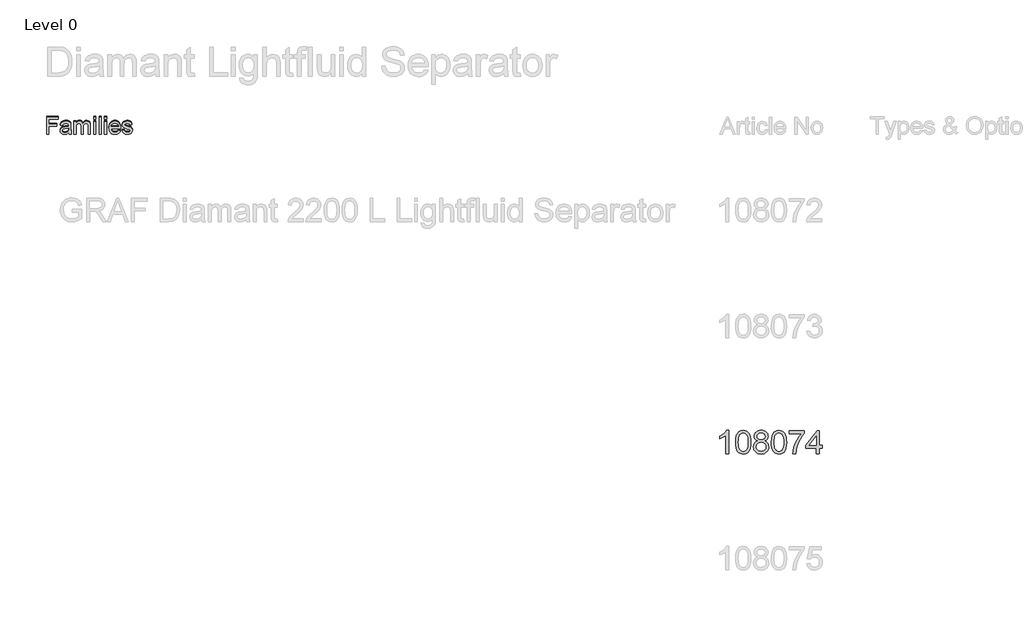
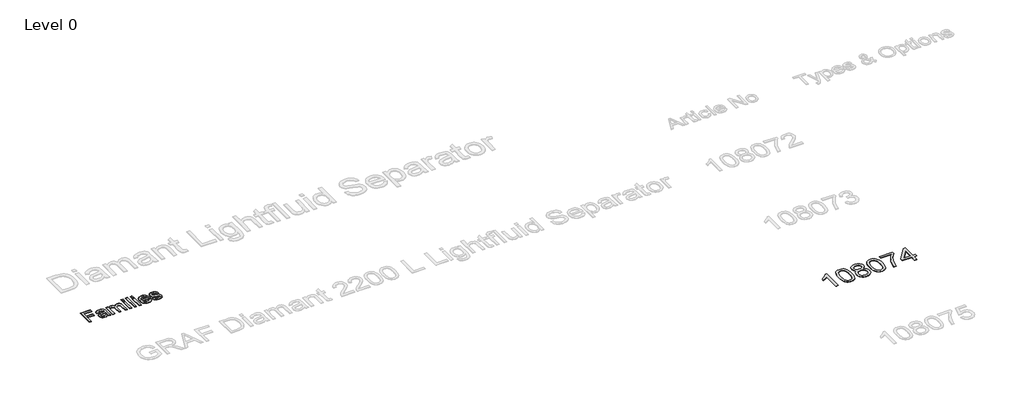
# One storey, part 4 of 8: 3 proxies.
"""IFC4 building model written with IfcOpenShell, lengths in millimetres."""

from ifc_helpers import new_model, si_unit, origin, origin_with_axes, place, context, project, spatial, polyline, outline, extrude, element, save

model = new_model("IFC4")

# Units and contexts
model_context = context("Model", 3, world=origin())
ifc_project = project(units=[si_unit("LENGTHUNIT", "METRE", prefix="MILLI")], contexts=[model_context])

# Site, building, storey
site = spatial("IfcSite", under=ifc_project)
building = spatial("IfcBuilding", under=site)
storey = spatial("IfcBuildingStorey", under=building, Name="Level 0", Elevation=0.0)

# Proxies
placement = place(None, origin())
element("IfcBuildingElementProxy", 1, Name="300mm Arial", ObjectType="300mm Arial", at=placement, inside=storey, context=model_context, shape_type="SweptSolid", body=[
    extrude(outline(polyline([(-15382.9152593, 11653.8274553), (-15382.9152593, 11949.2120707), (-15184.4537209, 11949.2120707), (-15184.4537209, 11912.2889938), (-15345.9921824, 11912.2889938), (-15345.9921824, 11824.5966861), (-15207.530644, 11824.5966861), (-15207.530644, 11787.6736092), (-15345.9921824, 11787.6736092), (-15345.9921824, 11653.8274553), (-15382.9152593, 11653.8274553)])), origin_with_axes(), (0.0, 0.0, 1.0), 10.0),
    extrude(outline(polyline([(-14999.8383363, 11681.519763), (-15017.4795622, 11666.3935611), (-15035.6436247, 11656.4957246), (-15054.7451872, 11651.0329842), (-15075.1989132, 11649.2120707), (-15106.0552834, 11653.5930803), (-15128.8167017, 11666.7361092), (-15142.8521584, 11686.6940419), (-15147.530644, 11711.519763), (-15145.763817, 11726.8262534), (-15140.4633363, 11740.7264938), (-15132.2872545, 11752.6255323), (-15121.8936247, 11761.9284169), (-15096.0402593, 11774.0438015), (-15064.093144, 11779.5966861), (-15026.3407401, 11785.4380323), (-15000.0546824, 11792.2889938), (-14999.8383363, 11800.5101476), (-15002.3804036, 11816.988513), (-15010.0066055, 11827.769763), (-15027.061894, 11835.7745707), (-15050.8239132, 11838.44284), (-15072.8191055, 11836.6669986), (-15088.1796824, 11831.3394746), (-15098.654442, 11821.4867101), (-15105.9921824, 11806.1351476), (-15142.9152593, 11810.7505323), (-15136.5060045, 11830.94284), (-15126.9417017, 11846.8082246), (-15113.3299228, 11858.941638), (-15094.7782401, 11867.9380323), (-15072.0889372, 11873.5089457), (-15046.0642978, 11875.3659169), (-15021.1033603, 11873.7252919), (-15001.3167017, 11868.8034169), (-14986.3978315, 11861.4025755), (-14976.0402593, 11852.3250515), (-14969.171269, 11841.1020948), (-14964.718144, 11827.2649553), (-14962.9152593, 11794.957263), (-14962.9152593, 11749.019763), (-14961.0402593, 11684.8731284), (-14953.6844901, 11653.8274553), (-14990.607567, 11653.8274553), (-14999.8383363, 11681.519763)]), holes=[polyline([(-14999.8383363, 11755.3659169), (-15059.405644, 11744.0438015), (-15091.1724709, 11738.0582246), (-15105.5594901, 11728.3226476), (-15110.607567, 11714.1159169), (-15107.858168, 11703.1363496), (-15099.6099709, 11694.1399553), (-15086.0432642, 11688.1363496), (-15067.3383363, 11686.1351476), (-15047.5066055, 11688.3436813), (-15029.982567, 11694.9692823), (-15015.7758363, 11704.7319025), (-15005.8960286, 11716.3514938), (-15001.515019, 11728.3226476), (-15000.0546824, 11744.9091861), (-14999.8383363, 11755.3659169)])]), origin_with_axes(), (0.0, 0.0, 1.0), 10.0),
    extrude(outline(polyline([(-14912.1460286, 11653.8274553), (-14912.1460286, 11870.7505323), (-14875.2229517, 11870.7505323), (-14875.2229517, 11835.0534169), (-14864.1171824, 11851.4506525), (-14849.8383363, 11864.2962053), (-14832.873192, 11872.598489), (-14813.7085286, 11875.3659169), (-14793.1736728, 11872.5444025), (-14776.7133363, 11864.0798592), (-14764.4176632, 11850.5311813), (-14756.3767978, 11832.457263), (-14742.9182642, 11851.2297991), (-14727.5667017, 11864.6387534), (-14710.3221103, 11872.684126), (-14691.1844901, 11875.3659169), (-14663.4290815, 11870.9037775), (-14642.9032401, 11857.5173592), (-14630.2199468, 11834.8460851), (-14625.9921824, 11802.5293784), (-14625.9921824, 11653.8274553), (-14662.9152593, 11653.8274553), (-14662.9152593, 11786.6639938), (-14666.3407401, 11817.4933207), (-14671.154442, 11825.9939217), (-14678.7445863, 11832.6736092), (-14688.5072065, 11837.0005323), (-14699.8383363, 11838.44284), (-14719.8413411, 11834.7469265), (-14736.1484324, 11823.6591861), (-14746.9927834, 11804.4224073), (-14750.607567, 11776.2793784), (-14750.607567, 11653.8274553), (-14787.530644, 11653.8274553), (-14787.530644, 11790.7745707), (-14789.6670622, 11811.6519746), (-14796.076317, 11826.5438015), (-14807.3533603, 11835.4680803), (-14824.093144, 11838.44284), (-14838.3179036, 11836.4596669), (-14851.4248747, 11830.5101476), (-14862.2421824, 11820.738513), (-14869.5979517, 11807.2889938), (-14873.8167017, 11788.629138), (-14875.2229517, 11763.2264938), (-14875.2229517, 11653.8274553), (-14912.1460286, 11653.8274553)])), origin_with_axes(), (0.0, 0.0, 1.0), 10.0),
    extrude(outline(polyline([(-14570.607567, 11912.2889938), (-14570.607567, 11949.2120707), (-14533.6844901, 11949.2120707), (-14533.6844901, 11912.2889938), (-14570.607567, 11912.2889938)])), origin_with_axes(), (0.0, 0.0, 1.0), 10.0),
    extrude(outline(polyline([(-14570.607567, 11653.8274553), (-14570.607567, 11870.7505323), (-14533.6844901, 11870.7505323), (-14533.6844901, 11653.8274553), (-14570.607567, 11653.8274553)])), origin_with_axes(), (0.0, 0.0, 1.0), 10.0),
    extrude(outline(polyline([(-14478.2998747, 11653.8274553), (-14478.2998747, 11949.2120707), (-14441.3767978, 11949.2120707), (-14441.3767978, 11653.8274553), (-14478.2998747, 11653.8274553)])), origin_with_axes(), (0.0, 0.0, 1.0), 10.0),
    extrude(outline(polyline([(-14385.9921824, 11912.2889938), (-14385.9921824, 11949.2120707), (-14349.0691055, 11949.2120707), (-14349.0691055, 11912.2889938), (-14385.9921824, 11912.2889938)])), origin_with_axes(), (0.0, 0.0, 1.0), 10.0),
    extrude(outline(polyline([(-14385.9921824, 11653.8274553), (-14385.9921824, 11870.7505323), (-14349.0691055, 11870.7505323), (-14349.0691055, 11653.8274553), (-14385.9921824, 11653.8274553)])), origin_with_axes(), (0.0, 0.0, 1.0), 10.0),
    extrude(outline(polyline([(-14141.8094901, 11718.44284), (-14105.607567, 11713.8274553), (-14118.6514372, 11686.5498111), (-14139.4657401, 11666.1591861), (-14167.5817257, 11653.4488496), (-14202.530644, 11649.2120707), (-14225.4408002, 11651.039745), (-14245.8539613, 11656.5227678), (-14263.7701271, 11665.6611392), (-14279.1892978, 11678.4548592), (-14291.5886367, 11694.547858), (-14300.4453074, 11713.5840659), (-14305.7593098, 11735.563483), (-14307.530644, 11760.4861092), (-14305.741281, 11786.2538375), (-14300.373192, 11808.9656765), (-14291.4263771, 11828.621626), (-14278.9008363, 11845.2216861), (-14263.5222305, 11858.4097871), (-14246.0162209, 11867.8298592), (-14226.3828074, 11873.4819025), (-14204.6219901, 11875.3659169), (-14183.5620442, 11873.4864097), (-14164.5168218, 11867.847888), (-14147.486323, 11858.450352), (-14132.4705478, 11845.2938015), (-14120.213186, 11828.7297991), (-14111.4579276, 11809.1099073), (-14106.2047726, 11786.434126), (-14104.4537209, 11760.7024553), (-14104.670067, 11750.7505323), (-14270.607567, 11750.7505323), (-14264.2163411, 11723.1123111), (-14249.3695863, 11702.7938015), (-14227.9423026, 11690.2998111), (-14201.8094901, 11686.1351476), (-14182.1580478, 11688.0642342), (-14165.607567, 11693.8514938), (-14152.1580478, 11703.8575034), (-14141.8094901, 11718.44284)]), holes=[polyline([(-14270.607567, 11787.6736092), (-14141.3767978, 11787.6736092), (-14146.3707882, 11807.1808207), (-14156.1604517, 11821.1351476), (-14177.686894, 11834.1159169), (-14204.7662209, 11838.44284), (-14229.655043, 11834.9903159), (-14250.2349709, 11824.6327438), (-14264.5408603, 11808.4879121), (-14270.607567, 11787.6736092)])]), origin_with_axes(), (0.0, 0.0, 1.0), 10.0),
    extrude(outline(polyline([(-14081.3767978, 11718.44284), (-14044.4537209, 11723.0582246), (-14038.6304036, 11707.2649553), (-14027.3623747, 11695.6543784), (-14010.577519, 11688.5149553), (-13988.2037209, 11686.1351476), (-13966.1003555, 11688.316638), (-13950.5594901, 11694.8611092), (-13941.3647786, 11704.3442823), (-13938.2998747, 11715.3418784), (-13941.3828074, 11724.7529361), (-13950.6316055, 11731.9284169), (-13988.6364132, 11742.457263), (-14044.2373747, 11760.5221669), (-14058.3088892, 11769.5996909), (-14068.5042017, 11781.6159169), (-14074.6971103, 11795.8046188), (-14076.7614132, 11811.3995707), (-14075.1027593, 11825.7054601), (-14070.1267978, 11838.91159), (-14062.2842497, 11850.4951236), (-14052.0258363, 11859.9332246), (-14028.5522786, 11870.8587053), (-13996.7854517, 11875.3659169), (-13972.7529997, 11873.5540178), (-13951.857567, 11868.1183207), (-13935.0546824, 11859.5906765), (-13923.2998747, 11848.5029361), (-13915.5114132, 11834.0347871), (-13910.607567, 11815.3659169), (-13947.530644, 11810.7505323), (-13952.1911007, 11822.3701236), (-13961.4128555, 11831.1231284), (-13975.2860526, 11836.6129121), (-13993.9008363, 11838.44284), (-14015.1027593, 11836.6940419), (-14029.2373747, 11831.4476476), (-14037.1880959, 11823.8755323), (-14039.8383363, 11815.1495707), (-14035.4392978, 11804.4043784), (-14021.6652593, 11796.25534), (-13989.8623747, 11788.394763), (-13935.6676632, 11771.0149553), (-13921.3527593, 11762.7036573), (-13910.499394, 11751.3274553), (-13903.6574468, 11736.8502919), (-13901.3767978, 11719.2361092), (-13904.0540815, 11701.0269746), (-13912.0859324, 11683.8995707), (-13925.1658603, 11669.1970467), (-13942.9873747, 11658.2625515), (-13964.513817, 11651.4746909), (-13988.7085286, 11649.2120707), (-14025.9380959, 11653.5750515), (-14053.107567, 11666.6639938), (-14071.2445863, 11688.3346669), (-14081.3767978, 11718.44284)])), origin_with_axes(), (0.0, 0.0, 1.0), 10.0),
])
element("IfcBuildingElementProxy", 2, Name="300mm Arial", ObjectType="300mm Arial", at=placement, inside=storey, context=model_context, shape_type="SweptSolid", body=[
    extrude(outline(polyline([(-15382.9152593, 11671.1260199), (-15382.9152593, 11966.5106353), (-15184.4537209, 11966.5106353), (-15184.4537209, 11929.5875583), (-15345.9921824, 11929.5875583), (-15345.9921824, 11841.8952506), (-15207.530644, 11841.8952506), (-15207.530644, 11804.9721737), (-15345.9921824, 11804.9721737), (-15345.9921824, 11671.1260199), (-15382.9152593, 11671.1260199)])), origin_with_axes(), (0.0, 0.0, 1.0), 5.0),
    extrude(outline(polyline([(-14999.8383363, 11698.8183276), (-15017.4795622, 11683.6921256), (-15035.6436247, 11673.7942891), (-15054.7451872, 11668.3315487), (-15075.1989132, 11666.5106353), (-15106.0552834, 11670.8916449), (-15128.8167017, 11684.0346737), (-15142.8521584, 11703.9926064), (-15147.530644, 11728.8183276), (-15145.763817, 11744.1248179), (-15140.4633363, 11758.0250583), (-15132.2872545, 11769.9240968), (-15121.8936247, 11779.2269814), (-15096.0402593, 11791.342366), (-15064.093144, 11796.8952506), (-15026.3407401, 11802.7365968), (-15000.0546824, 11809.5875583), (-14999.8383363, 11817.8087122), (-15002.3804036, 11834.2870776), (-15010.0066055, 11845.0683276), (-15027.061894, 11853.0731353), (-15050.8239132, 11855.7414045), (-15072.8191055, 11853.9655631), (-15088.1796824, 11848.6380391), (-15098.654442, 11838.7852747), (-15105.9921824, 11823.4337122), (-15142.9152593, 11828.0490968), (-15136.5060045, 11848.2414045), (-15126.9417017, 11864.1067891), (-15113.3299228, 11876.2402026), (-15094.7782401, 11885.2365968), (-15072.0889372, 11890.8075103), (-15046.0642978, 11892.6644814), (-15021.1033603, 11891.0238564), (-15001.3167017, 11886.1019814), (-14986.3978315, 11878.7011401), (-14976.0402593, 11869.623616), (-14969.171269, 11858.4006593), (-14964.718144, 11844.5635199), (-14962.9152593, 11812.2558276), (-14962.9152593, 11766.3183276), (-14961.0402593, 11702.1716929), (-14953.6844901, 11671.1260199), (-14990.607567, 11671.1260199), (-14999.8383363, 11698.8183276)]), holes=[polyline([(-14999.8383363, 11772.6644814), (-15059.405644, 11761.342366), (-15091.1724709, 11755.3567891), (-15105.5594901, 11745.6212122), (-15110.607567, 11731.4144814), (-15107.858168, 11720.4349141), (-15099.6099709, 11711.4385199), (-15086.0432642, 11705.4349141), (-15067.3383363, 11703.4337122), (-15047.5066055, 11705.6422458), (-15029.982567, 11712.2678468), (-15015.7758363, 11722.030467), (-15005.8960286, 11733.6500583), (-15001.515019, 11745.6212122), (-15000.0546824, 11762.2077506), (-14999.8383363, 11772.6644814)])]), origin_with_axes(), (0.0, 0.0, 1.0), 5.0),
    extrude(outline(polyline([(-14912.1460286, 11671.1260199), (-14912.1460286, 11888.0490968), (-14875.2229517, 11888.0490968), (-14875.2229517, 11852.3519814), (-14864.1171824, 11868.749217), (-14849.8383363, 11881.5947699), (-14832.873192, 11889.8970535), (-14813.7085286, 11892.6644814), (-14793.1736728, 11889.842967), (-14776.7133363, 11881.3784237), (-14764.4176632, 11867.8297458), (-14756.3767978, 11849.7558276), (-14742.9182642, 11868.5283636), (-14727.5667017, 11881.9373179), (-14710.3221103, 11889.9826905), (-14691.1844901, 11892.6644814), (-14663.4290815, 11888.202342), (-14642.9032401, 11874.8159237), (-14630.2199468, 11852.1446497), (-14625.9921824, 11819.8279429), (-14625.9921824, 11671.1260199), (-14662.9152593, 11671.1260199), (-14662.9152593, 11803.9625583), (-14666.3407401, 11834.7918853), (-14671.154442, 11843.2924862), (-14678.7445863, 11849.9721737), (-14688.5072065, 11854.2990968), (-14699.8383363, 11855.7414045), (-14719.8413411, 11852.045491), (-14736.1484324, 11840.9577506), (-14746.9927834, 11821.7209718), (-14750.607567, 11793.5779429), (-14750.607567, 11671.1260199), (-14787.530644, 11671.1260199), (-14787.530644, 11808.0731353), (-14789.6670622, 11828.9505391), (-14796.076317, 11843.842366), (-14807.3533603, 11852.7666449), (-14824.093144, 11855.7414045), (-14838.3179036, 11853.7582314), (-14851.4248747, 11847.8087122), (-14862.2421824, 11838.0370776), (-14869.5979517, 11824.5875583), (-14873.8167017, 11805.9277026), (-14875.2229517, 11780.5250583), (-14875.2229517, 11671.1260199), (-14912.1460286, 11671.1260199)])), origin_with_axes(), (0.0, 0.0, 1.0), 5.0),
    extrude(outline(polyline([(-14570.607567, 11929.5875583), (-14570.607567, 11966.5106353), (-14533.6844901, 11966.5106353), (-14533.6844901, 11929.5875583), (-14570.607567, 11929.5875583)])), origin_with_axes(), (0.0, 0.0, 1.0), 5.0),
    extrude(outline(polyline([(-14570.607567, 11671.1260199), (-14570.607567, 11888.0490968), (-14533.6844901, 11888.0490968), (-14533.6844901, 11671.1260199), (-14570.607567, 11671.1260199)])), origin_with_axes(), (0.0, 0.0, 1.0), 5.0),
    extrude(outline(polyline([(-14478.2998747, 11671.1260199), (-14478.2998747, 11966.5106353), (-14441.3767978, 11966.5106353), (-14441.3767978, 11671.1260199), (-14478.2998747, 11671.1260199)])), origin_with_axes(), (0.0, 0.0, 1.0), 5.0),
    extrude(outline(polyline([(-14385.9921824, 11929.5875583), (-14385.9921824, 11966.5106353), (-14349.0691055, 11966.5106353), (-14349.0691055, 11929.5875583), (-14385.9921824, 11929.5875583)])), origin_with_axes(), (0.0, 0.0, 1.0), 5.0),
    extrude(outline(polyline([(-14385.9921824, 11671.1260199), (-14385.9921824, 11888.0490968), (-14349.0691055, 11888.0490968), (-14349.0691055, 11671.1260199), (-14385.9921824, 11671.1260199)])), origin_with_axes(), (0.0, 0.0, 1.0), 5.0),
    extrude(outline(polyline([(-14141.8094901, 11735.7414045), (-14105.607567, 11731.1260199), (-14118.6514372, 11703.8483756), (-14139.4657401, 11683.4577506), (-14167.5817257, 11670.7474141), (-14202.530644, 11666.5106353), (-14225.4408002, 11668.3383095), (-14245.8539613, 11673.8213324), (-14263.7701271, 11682.9597038), (-14279.1892978, 11695.7534237), (-14291.5886367, 11711.8464225), (-14300.4453074, 11730.8826304), (-14305.7593098, 11752.8620475), (-14307.530644, 11777.7846737), (-14305.741281, 11803.5524021), (-14300.373192, 11826.264241), (-14291.4263771, 11845.9201905), (-14278.9008363, 11862.5202506), (-14263.5222305, 11875.7083516), (-14246.0162209, 11885.1284237), (-14226.3828074, 11890.780467), (-14204.6219901, 11892.6644814), (-14183.5620442, 11890.7849742), (-14164.5168218, 11885.1464526), (-14147.486323, 11875.7489165), (-14132.4705478, 11862.592366), (-14120.213186, 11846.0283636), (-14111.4579276, 11826.4084718), (-14106.2047726, 11803.7326905), (-14104.4537209, 11778.0010199), (-14104.670067, 11768.0490968), (-14270.607567, 11768.0490968), (-14264.2163411, 11740.4108756), (-14249.3695863, 11720.092366), (-14227.9423026, 11707.5983756), (-14201.8094901, 11703.4337122), (-14182.1580478, 11705.3627987), (-14165.607567, 11711.1500583), (-14152.1580478, 11721.1560679), (-14141.8094901, 11735.7414045)]), holes=[polyline([(-14270.607567, 11804.9721737), (-14141.3767978, 11804.9721737), (-14146.3707882, 11824.4793853), (-14156.1604517, 11838.4337122), (-14177.686894, 11851.4144814), (-14204.7662209, 11855.7414045), (-14229.655043, 11852.2888804), (-14250.2349709, 11841.9313083), (-14264.5408603, 11825.7864766), (-14270.607567, 11804.9721737)])]), origin_with_axes(), (0.0, 0.0, 1.0), 5.0),
    extrude(outline(polyline([(-14081.3767978, 11735.7414045), (-14044.4537209, 11740.3567891), (-14038.6304036, 11724.5635199), (-14027.3623747, 11712.9529429), (-14010.577519, 11705.8135199), (-13988.2037209, 11703.4337122), (-13966.1003555, 11705.6152026), (-13950.5594901, 11712.1596737), (-13941.3647786, 11721.6428468), (-13938.2998747, 11732.6404429), (-13941.3828074, 11742.0515006), (-13950.6316055, 11749.2269814), (-13988.6364132, 11759.7558276), (-14044.2373747, 11777.8207314), (-14058.3088892, 11786.8982554), (-14068.5042017, 11798.9144814), (-14074.6971103, 11813.1031833), (-14076.7614132, 11828.6981353), (-14075.1027593, 11843.0040247), (-14070.1267978, 11856.2101545), (-14062.2842497, 11867.7936881), (-14052.0258363, 11877.2317891), (-14028.5522786, 11888.1572699), (-13996.7854517, 11892.6644814), (-13972.7529997, 11890.8525824), (-13951.857567, 11885.4168853), (-13935.0546824, 11876.889241), (-13923.2998747, 11865.8015006), (-13915.5114132, 11851.3333516), (-13910.607567, 11832.6644814), (-13947.530644, 11828.0490968), (-13952.1911007, 11839.6686881), (-13961.4128555, 11848.4216929), (-13975.2860526, 11853.9114766), (-13993.9008363, 11855.7414045), (-14015.1027593, 11853.9926064), (-14029.2373747, 11848.7462122), (-14037.1880959, 11841.1740968), (-14039.8383363, 11832.4481353), (-14035.4392978, 11821.7029429), (-14021.6652593, 11813.5539045), (-13989.8623747, 11805.6933276), (-13935.6676632, 11788.3135199), (-13921.3527593, 11780.0022218), (-13910.499394, 11768.6260199), (-13903.6574468, 11754.1488564), (-13901.3767978, 11736.5346737), (-13904.0540815, 11718.3255391), (-13912.0859324, 11701.1981353), (-13925.1658603, 11686.4956112), (-13942.9873747, 11675.561116), (-13964.513817, 11668.7732554), (-13988.7085286, 11666.5106353), (-14025.9380959, 11670.873616), (-14053.107567, 11683.9625583), (-14071.2445863, 11705.6332314), (-14081.3767978, 11735.7414045)])), origin_with_axes(), (0.0, 0.0, 1.0), 5.0),
])
element("IfcBuildingElementProxy", 3, Name="400mm Arial", ObjectType="400mm Arial", at=placement, inside=storey, context=model_context, shape_type="SweptSolid", body=[
    extrude(outline(polyline([(-3629.592891, 6149.0232018), (-3679.821046, 6149.0232018), (-3679.821046, 6462.1643561), (-3700.7903198, 6445.2049961), (-3727.4004508, 6428.2701616), (-3780.2773562, 6402.9108294), (-3780.2773562, 6450.3921323), (-3740.8281436, 6471.8519153), (-3706.6519062, 6497.3829258), (-3679.7106814, 6524.532617), (-3661.9665065, 6550.8484424), (-3629.592891, 6550.8484424), (-3629.592891, 6149.0232018)])), origin_with_axes(), (0.0, 0.0, 1.0), 5.0),
    extrude(outline(polyline([(-3510.3010227, 6346.6984606), (-3506.60994, 6411.0164961), (-3495.5366919, 6462.3115089), (-3477.1916431, 6501.3683141), (-3465.3335801, 6516.6016944), (-3451.6851581, 6528.9717264), (-3436.2003918, 6538.5427897), (-3418.8332959, 6545.3792634), (-3378.4521156, 6550.8484424), (-3347.5009771, 6547.6110809), (-3319.7872001, 6537.8989962), (-3296.6106344, 6522.0923331), (-3279.2711297, 6500.5712364), (-3266.1745307, 6473.519647), (-3255.726682, 6441.121506), (-3248.8840769, 6399.9800362), (-3246.6032085, 6346.6984606), (-3250.257503, 6282.7483071), (-3261.2203865, 6231.5759215), (-3279.4550707, 6192.4823282), (-3291.2855425, 6177.2029627), (-3304.9247675, 6164.7685512), (-3320.4279279, 6155.1331086), (-3337.8502061, 6148.2506496), (-3378.4521156, 6142.7446824), (-3406.1168416, 6145.1359154), (-3430.642308, 6152.3096143), (-3452.0285146, 6164.2657792), (-3470.2754616, 6181.0044099), (-3487.7866446, 6211.262704), (-3500.2946324, 6248.9644772), (-3507.7994251, 6294.1097294), (-3510.3010227, 6346.6984606)]), holes=[polyline([(-3460.0728676, 6346.7965624), (-3458.6013396, 6303.1320353), (-3454.1867557, 6267.7877726), (-3446.8291158, 6240.7637744), (-3436.5284199, 6222.0600406), (-3424.069483, 6209.3343892), (-3410.23712, 6200.2446383), (-3395.0313308, 6194.7907877), (-3378.4521156, 6192.9728375), (-3361.8729003, 6194.7969191), (-3346.6671112, 6200.2691637), (-3332.8347482, 6209.3895715), (-3320.3758113, 6222.1581425), (-3310.0751154, 6240.8925331), (-3302.7174755, 6267.9103999), (-3298.3028916, 6303.2117431), (-3296.8313636, 6346.7965624), (-3298.2538406, 6389.305327), (-3302.5212718, 6424.0272559), (-3309.633657, 6450.9623494), (-3319.5909964, 6470.1106072), (-3331.8414668, 6483.4585923), (-3345.8332454, 6492.9928673), (-3361.566332, 6498.7134323), (-3379.0407268, 6500.6202873), (-3395.5341029, 6498.9402929), (-3410.4823746, 6493.9003096), (-3423.885542, 6485.5003373), (-3435.743605, 6473.7403762), (-3446.3876574, 6452.8937298), (-3453.9905519, 6424.7875454), (-3458.5522887, 6389.4218229), (-3460.0728676, 6346.7965624)])]), origin_with_axes(), (0.0, 0.0, 1.0), 5.0),
    extrude(outline(polyline([(-3129.4695813, 6370.3410101), (-3156.3617551, 6383.5847619), (-3175.2341015, 6401.5374033), (-3186.3809259, 6423.8310522), (-3190.0965341, 6450.0978267), (-3188.0731831, 6470.5827224), (-3182.0031302, 6489.3630983), (-3171.8863753, 6506.4389542), (-3157.7229185, 6521.8102903), (-3140.1933414, 6534.5144818), (-3119.9782258, 6543.5889044), (-3097.0775716, 6549.0335579), (-3071.4913788, 6550.8484424), (-3045.7825587, 6548.9906383), (-3022.7102263, 6543.4172261), (-3002.2743814, 6534.1282057), (-2984.4750242, 6521.1235772), (-2970.05405, 6505.4518042), (-2959.7533542, 6488.1613504), (-2953.5729366, 6469.2522159), (-2951.5127975, 6448.7244006), (-2955.1793547, 6423.3037547), (-2966.1790263, 6401.3902505), (-2984.6344398, 6383.5479737), (-3010.6682223, 6370.3410101), (-2979.753872, 6354.4117197), (-2957.2517566, 6330.9531112), (-2943.5297582, 6301.0933559), (-2938.9557587, 6265.9606254), (-2941.2243643, 6240.9078615), (-2948.0301812, 6217.9397623), (-2959.3732094, 6197.0563277), (-2975.2534489, 6178.2575577), (-2994.8370338, 6162.7206748), (-3017.2900982, 6151.6229013), (-3042.6126422, 6144.9642371), (-3070.8046658, 6142.7446824), (-3098.9966893, 6144.9734342), (-3124.3192333, 6151.6596895), (-3146.7722978, 6162.8034482), (-3166.3558826, 6178.4047105), (-3182.2361221, 6197.3353048), (-3193.5791503, 6218.4670598), (-3200.3849672, 6241.7999753), (-3202.6535728, 6267.3340515), (-3197.8956324, 6303.8279454), (-3183.621811, 6333.8471162), (-3160.5678726, 6356.3614943), (-3129.4695813, 6370.3410101)]), holes=[polyline([(-3139.868379, 6448.6262987), (-3135.4170068, 6426.7005318), (-3122.0628904, 6409.1893488), (-3100.1984372, 6397.7114306), (-3070.2160546, 6393.8854578), (-3040.9326478, 6397.6869051), (-3019.3992883, 6409.0912469), (-3006.1555365, 6426.0138187), (-3001.7409525, 6446.3699558), (-3006.3026893, 6467.498645), (-3019.9878995, 6484.9730398), (-3041.8155645, 6496.7084755), (-3070.8046658, 6500.6202873), (-3099.977708, 6496.7943146), (-3121.7685848, 6485.3163963), (-3135.3434305, 6468.4919264), (-3139.868379, 6448.6262987)]), polyline([(-3152.4254178, 6269.099885), (-3150.3284904, 6249.8841822), (-3144.0377083, 6231.2816159), (-3132.4249, 6215.05802), (-3114.361894, 6202.9792278), (-3092.7304327, 6195.4744351), (-3070.4122583, 6192.9728375), (-3036.2237582, 6198.23355), (-3022.3300815, 6204.8094407), (-3010.5701204, 6214.0156876), (-2994.5304654, 6237.9157546), (-2989.1839138, 6267.5302552), (-2994.7021437, 6297.6475279), (-3011.2568335, 6322.0748924), (-3023.3356257, 6331.5171969), (-3037.4990825, 6338.2617001), (-3072.07999, 6343.6573027), (-3105.7902435, 6338.3352765), (-3119.5275703, 6331.6827438), (-3131.1863639, 6322.3691979), (-3147.1156543, 6298.4078173), (-3152.4254178, 6269.099885)])]), origin_with_axes(), (0.0, 0.0, 1.0), 5.0),
    extrude(outline(polyline([(-2895.006123, 6346.6984606), (-2891.3150403, 6411.0164961), (-2880.2417923, 6462.3115089), (-2861.8967434, 6501.3683141), (-2850.0386805, 6516.6016944), (-2836.3902584, 6528.9717264), (-2820.9054921, 6538.5427897), (-2803.5383963, 6545.3792634), (-2763.1572159, 6550.8484424), (-2732.2060774, 6547.6110809), (-2704.4923004, 6537.8989962), (-2681.3157347, 6522.0923331), (-2663.97623, 6500.5712364), (-2650.879631, 6473.519647), (-2640.4317823, 6441.121506), (-2633.5891772, 6399.9800362), (-2631.3083089, 6346.6984606), (-2634.9626033, 6282.7483071), (-2645.9254868, 6231.5759215), (-2664.160171, 6192.4823282), (-2675.9906429, 6177.2029627), (-2689.6298678, 6164.7685512), (-2705.1330282, 6155.1331086), (-2722.5553064, 6148.2506496), (-2763.1572159, 6142.7446824), (-2790.821942, 6145.1359154), (-2815.3474083, 6152.3096143), (-2836.733615, 6164.2657792), (-2854.9805619, 6181.0044099), (-2872.4917449, 6211.262704), (-2884.9997327, 6248.9644772), (-2892.5045254, 6294.1097294), (-2895.006123, 6346.6984606)]), holes=[polyline([(-2844.7779679, 6346.7965624), (-2843.3064399, 6303.1320353), (-2838.891856, 6267.7877726), (-2831.5342161, 6240.7637744), (-2821.2335202, 6222.0600406), (-2808.7745833, 6209.3343892), (-2794.9422203, 6200.2446383), (-2779.7364312, 6194.7907877), (-2763.1572159, 6192.9728375), (-2746.5780007, 6194.7969191), (-2731.3722115, 6200.2691637), (-2717.5398485, 6209.3895715), (-2705.0809116, 6222.1581425), (-2694.7802158, 6240.8925331), (-2687.4225759, 6267.9103999), (-2683.0079919, 6303.2117431), (-2681.5364639, 6346.7965624), (-2682.958941, 6389.305327), (-2687.2263721, 6424.0272559), (-2694.3387574, 6450.9623494), (-2704.2960967, 6470.1106072), (-2716.5465671, 6483.4585923), (-2730.5383457, 6492.9928673), (-2746.2714324, 6498.7134323), (-2763.7458271, 6500.6202873), (-2780.2392032, 6498.9402929), (-2795.187475, 6493.9003096), (-2808.5906423, 6485.5003373), (-2820.4487053, 6473.7403762), (-2831.0927577, 6452.8937298), (-2838.6956523, 6424.7875454), (-2843.257389, 6389.4218229), (-2844.7779679, 6346.7965624)])]), origin_with_axes(), (0.0, 0.0, 1.0), 5.0),
    extrude(outline(polyline([(-2587.3586732, 6494.341768), (-2587.3586732, 6544.569923), (-2323.660859, 6544.569923), (-2323.660859, 6503.9557508), (-2361.2461362, 6456.3886088), (-2398.4635314, 6395.8965461), (-2431.2908681, 6327.9977925), (-2455.7059698, 6258.210578), (-2467.6743974, 6205.9958601), (-2474.3453243, 6149.0232018), (-2524.5734793, 6149.0232018), (-2519.1410885, 6200.7964613), (-2504.6097497, 6262.3308563), (-2481.3718704, 6327.5563341), (-2449.8198579, 6390.4028416), (-2412.9826075, 6447.2160844), (-2373.8890141, 6494.341768), (-2587.3586732, 6494.341768)])), origin_with_axes(), (0.0, 0.0, 1.0), 5.0),
    extrude(outline(polyline([(-2116.4697193, 6149.0232018), (-2116.4697193, 6243.2009926), (-2298.5467815, 6243.2009926), (-2298.5467815, 6293.4291477), (-2103.9126806, 6544.569923), (-2066.2415643, 6544.569923), (-2066.2415643, 6293.4291477), (-2016.0134092, 6293.4291477), (-2016.0134092, 6243.2009926), (-2066.2415643, 6243.2009926), (-2066.2415643, 6149.0232018), (-2116.4697193, 6149.0232018)]), holes=[polyline([(-2116.4697193, 6293.4291477), (-2116.4697193, 6448.6262987), (-2236.7426063, 6293.4291477), (-2116.4697193, 6293.4291477)])]), origin_with_axes(), (0.0, 0.0, 1.0), 5.0),
])

save(model, "model.ifc")
